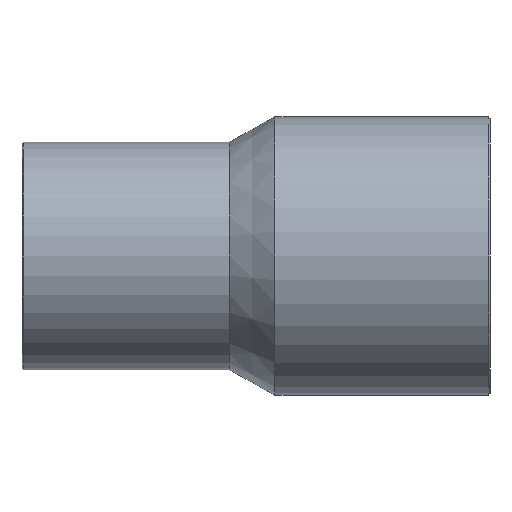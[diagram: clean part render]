
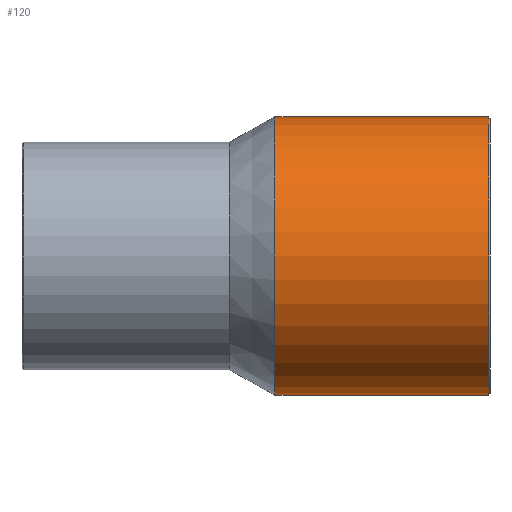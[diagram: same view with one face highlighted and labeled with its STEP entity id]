
A CAD part, front view. The second image highlights one B-rep face of the part: STEP entity #120.
In plain terms, the highlighted cylindrical face has radius 55 mm (diameter 110 mm), a full revolution.
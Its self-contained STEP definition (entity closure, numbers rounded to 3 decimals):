
#26=ORIENTED_EDGE('',*,*,#46,.T.);
#27=ORIENTED_EDGE('',*,*,#47,.F.);
#46=EDGE_CURVE('',#56,#56,#66,.T.);
#47=EDGE_CURVE('',#57,#57,#67,.T.);
#56=VERTEX_POINT('',#208);
#57=VERTEX_POINT('',#210);
#66=CIRCLE('',#144,55.);
#67=CIRCLE('',#145,55.);
#76=EDGE_LOOP('',(#26));
#77=EDGE_LOOP('',(#27));
#96=FACE_BOUND('',#76,.T.);
#97=FACE_BOUND('',#77,.T.);
#116=CYLINDRICAL_SURFACE('',#143,55.);
#120=ADVANCED_FACE('',(#96,#97),#116,.T.);
#143=AXIS2_PLACEMENT_3D('',#206,#165,#166);
#144=AXIS2_PLACEMENT_3D('',#207,#167,#168);
#145=AXIS2_PLACEMENT_3D('',#209,#169,#170);
#165=DIRECTION('',(-1.,0.,0.));
#166=DIRECTION('',(0.,0.,1.));
#167=DIRECTION('',(-1.,0.,0.));
#168=DIRECTION('',(0.,0.,1.));
#169=DIRECTION('',(-1.,0.,0.));
#170=DIRECTION('',(0.,0.,1.));
#206=CARTESIAN_POINT('',(-60.,0.,0.));
#207=CARTESIAN_POINT('',(93.5,0.,0.));
#208=CARTESIAN_POINT('',(93.5,0.,55.));
#209=CARTESIAN_POINT('',(9.,0.,0.));
#210=CARTESIAN_POINT('',(9.,0.,55.));
